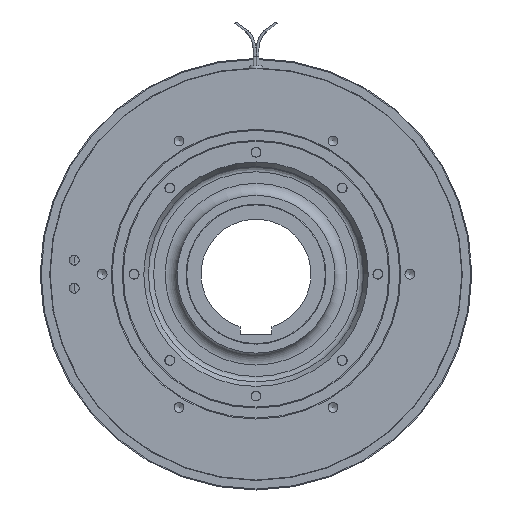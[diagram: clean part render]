
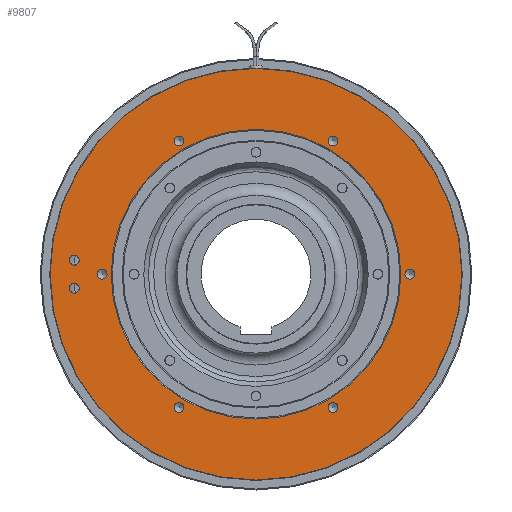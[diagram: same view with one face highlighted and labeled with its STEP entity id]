
A CAD part, left-side view. The second image highlights one B-rep face of the part: STEP entity #9807.
In plain terms, the highlighted planar face has unit normal (-1, 0, 0).
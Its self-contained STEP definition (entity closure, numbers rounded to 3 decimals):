
#747=FACE_BOUND('',#2061,.T.);
#748=FACE_BOUND('',#2062,.T.);
#749=FACE_BOUND('',#2063,.T.);
#750=FACE_BOUND('',#2064,.T.);
#751=FACE_BOUND('',#2065,.T.);
#752=FACE_BOUND('',#2066,.T.);
#753=FACE_BOUND('',#2067,.T.);
#754=FACE_BOUND('',#2068,.T.);
#755=FACE_BOUND('',#2069,.T.);
#948=PLANE('',#11174);
#1443=FACE_OUTER_BOUND('',#2060,.T.);
#2060=EDGE_LOOP('',(#9176,#9177,#9178));
#2061=EDGE_LOOP('',(#9179,#9180));
#2062=EDGE_LOOP('',(#9181,#9182));
#2063=EDGE_LOOP('',(#9183,#9184));
#2064=EDGE_LOOP('',(#9185,#9186));
#2065=EDGE_LOOP('',(#9187,#9188));
#2066=EDGE_LOOP('',(#9189,#9190));
#2067=EDGE_LOOP('',(#9191,#9192));
#2068=EDGE_LOOP('',(#9193,#9194));
#2069=EDGE_LOOP('',(#9195));
#3818=CIRCLE('',#11066,103.);
#3819=CIRCLE('',#11067,103.);
#3857=CIRCLE('',#11129,2.459);
#3858=CIRCLE('',#11130,2.459);
#3859=CIRCLE('',#11132,2.459);
#3860=CIRCLE('',#11133,2.459);
#3863=CIRCLE('',#11138,2.459);
#3864=CIRCLE('',#11139,2.459);
#3867=CIRCLE('',#11144,2.459);
#3868=CIRCLE('',#11145,2.459);
#3871=CIRCLE('',#11150,2.459);
#3872=CIRCLE('',#11151,2.459);
#3875=CIRCLE('',#11156,2.459);
#3876=CIRCLE('',#11157,2.459);
#3879=CIRCLE('',#11162,2.459);
#3880=CIRCLE('',#11163,2.459);
#3883=CIRCLE('',#11168,2.459);
#3884=CIRCLE('',#11169,2.459);
#3887=CIRCLE('',#11173,72.5);
#3888=CIRCLE('',#11175,103.);
#4796=VERTEX_POINT('',#17535);
#4797=VERTEX_POINT('',#17537);
#4798=VERTEX_POINT('',#17539);
#4832=VERTEX_POINT('',#17910);
#4833=VERTEX_POINT('',#17911);
#4834=VERTEX_POINT('',#17916);
#4835=VERTEX_POINT('',#17917);
#4839=VERTEX_POINT('',#17929);
#4840=VERTEX_POINT('',#17930);
#4844=VERTEX_POINT('',#17942);
#4845=VERTEX_POINT('',#17943);
#4849=VERTEX_POINT('',#17955);
#4850=VERTEX_POINT('',#17956);
#4854=VERTEX_POINT('',#17968);
#4855=VERTEX_POINT('',#17969);
#4859=VERTEX_POINT('',#17981);
#4860=VERTEX_POINT('',#17982);
#4864=VERTEX_POINT('',#17994);
#4865=VERTEX_POINT('',#17995);
#4868=VERTEX_POINT('',#18004);
#6209=EDGE_CURVE('',#4797,#4796,#3818,.T.);
#6210=EDGE_CURVE('',#4798,#4797,#3819,.T.);
#6271=EDGE_CURVE('',#4832,#4833,#3857,.T.);
#6272=EDGE_CURVE('',#4833,#4832,#3858,.T.);
#6274=EDGE_CURVE('',#4834,#4835,#3859,.T.);
#6275=EDGE_CURVE('',#4835,#4834,#3860,.T.);
#6280=EDGE_CURVE('',#4839,#4840,#3863,.T.);
#6281=EDGE_CURVE('',#4840,#4839,#3864,.T.);
#6286=EDGE_CURVE('',#4844,#4845,#3867,.T.);
#6287=EDGE_CURVE('',#4845,#4844,#3868,.T.);
#6292=EDGE_CURVE('',#4849,#4850,#3871,.T.);
#6293=EDGE_CURVE('',#4850,#4849,#3872,.T.);
#6298=EDGE_CURVE('',#4854,#4855,#3875,.T.);
#6299=EDGE_CURVE('',#4855,#4854,#3876,.T.);
#6304=EDGE_CURVE('',#4859,#4860,#3879,.T.);
#6305=EDGE_CURVE('',#4860,#4859,#3880,.T.);
#6310=EDGE_CURVE('',#4864,#4865,#3883,.T.);
#6311=EDGE_CURVE('',#4865,#4864,#3884,.T.);
#6316=EDGE_CURVE('',#4868,#4868,#3887,.T.);
#6317=EDGE_CURVE('',#4796,#4798,#3888,.T.);
#9176=ORIENTED_EDGE('',*,*,#6209,.T.);
#9177=ORIENTED_EDGE('',*,*,#6317,.T.);
#9178=ORIENTED_EDGE('',*,*,#6210,.T.);
#9179=ORIENTED_EDGE('',*,*,#6271,.T.);
#9180=ORIENTED_EDGE('',*,*,#6272,.T.);
#9181=ORIENTED_EDGE('',*,*,#6274,.T.);
#9182=ORIENTED_EDGE('',*,*,#6275,.T.);
#9183=ORIENTED_EDGE('',*,*,#6280,.T.);
#9184=ORIENTED_EDGE('',*,*,#6281,.T.);
#9185=ORIENTED_EDGE('',*,*,#6286,.T.);
#9186=ORIENTED_EDGE('',*,*,#6287,.T.);
#9187=ORIENTED_EDGE('',*,*,#6292,.T.);
#9188=ORIENTED_EDGE('',*,*,#6293,.T.);
#9189=ORIENTED_EDGE('',*,*,#6298,.T.);
#9190=ORIENTED_EDGE('',*,*,#6299,.T.);
#9191=ORIENTED_EDGE('',*,*,#6304,.T.);
#9192=ORIENTED_EDGE('',*,*,#6305,.T.);
#9193=ORIENTED_EDGE('',*,*,#6310,.T.);
#9194=ORIENTED_EDGE('',*,*,#6311,.T.);
#9195=ORIENTED_EDGE('',*,*,#6316,.F.);
#9807=ADVANCED_FACE('',(#1443,#747,#748,#749,#750,#751,#752,#753,#754,#755),
#948,.T.);
#11066=AXIS2_PLACEMENT_3D('',#17538,#14100,#14101);
#11067=AXIS2_PLACEMENT_3D('',#17540,#14102,#14103);
#11129=AXIS2_PLACEMENT_3D('',#17912,#14240,#14241);
#11130=AXIS2_PLACEMENT_3D('',#17913,#14242,#14243);
#11132=AXIS2_PLACEMENT_3D('',#17918,#14247,#14248);
#11133=AXIS2_PLACEMENT_3D('',#17919,#14249,#14250);
#11138=AXIS2_PLACEMENT_3D('',#17931,#14261,#14262);
#11139=AXIS2_PLACEMENT_3D('',#17932,#14263,#14264);
#11144=AXIS2_PLACEMENT_3D('',#17944,#14275,#14276);
#11145=AXIS2_PLACEMENT_3D('',#17945,#14277,#14278);
#11150=AXIS2_PLACEMENT_3D('',#17957,#14289,#14290);
#11151=AXIS2_PLACEMENT_3D('',#17958,#14291,#14292);
#11156=AXIS2_PLACEMENT_3D('',#17970,#14303,#14304);
#11157=AXIS2_PLACEMENT_3D('',#17971,#14305,#14306);
#11162=AXIS2_PLACEMENT_3D('',#17983,#14317,#14318);
#11163=AXIS2_PLACEMENT_3D('',#17984,#14319,#14320);
#11168=AXIS2_PLACEMENT_3D('',#17996,#14331,#14332);
#11169=AXIS2_PLACEMENT_3D('',#17997,#14333,#14334);
#11173=AXIS2_PLACEMENT_3D('',#18006,#14343,#14344);
#11174=AXIS2_PLACEMENT_3D('',#18007,#14345,#14346);
#11175=AXIS2_PLACEMENT_3D('',#18008,#14347,#14348);
#14100=DIRECTION('center_axis',(-1.,0.,0.));
#14101=DIRECTION('ref_axis',(0.,1.,0.));
#14102=DIRECTION('center_axis',(-1.,0.,0.));
#14103=DIRECTION('ref_axis',(0.,1.,0.));
#14240=DIRECTION('center_axis',(1.,0.,0.));
#14241=DIRECTION('ref_axis',(0.,0.,
1.));
#14242=DIRECTION('center_axis',(1.,0.,0.));
#14243=DIRECTION('ref_axis',(0.,0.,
1.));
#14247=DIRECTION('center_axis',(1.,0.,0.));
#14248=DIRECTION('ref_axis',(0.,0.,
1.));
#14249=DIRECTION('center_axis',(1.,0.,0.));
#14250=DIRECTION('ref_axis',(0.,0.,
1.));
#14261=DIRECTION('center_axis',(1.,0.,0.));
#14262=DIRECTION('ref_axis',(0.,0.,
1.));
#14263=DIRECTION('center_axis',(1.,0.,0.));
#14264=DIRECTION('ref_axis',(0.,0.,
1.));
#14275=DIRECTION('center_axis',(1.,0.,0.));
#14276=DIRECTION('ref_axis',(0.,0.,
1.));
#14277=DIRECTION('center_axis',(1.,0.,0.));
#14278=DIRECTION('ref_axis',(0.,0.,
1.));
#14289=DIRECTION('center_axis',(1.,0.,0.));
#14290=DIRECTION('ref_axis',(0.,0.,
1.));
#14291=DIRECTION('center_axis',(1.,0.,0.));
#14292=DIRECTION('ref_axis',(0.,0.,
1.));
#14303=DIRECTION('center_axis',(1.,0.,0.));
#14304=DIRECTION('ref_axis',(0.,0.,
1.));
#14305=DIRECTION('center_axis',(1.,0.,0.));
#14306=DIRECTION('ref_axis',(0.,0.,
1.));
#14317=DIRECTION('center_axis',(1.,0.,0.));
#14318=DIRECTION('ref_axis',(0.,0.,
1.));
#14319=DIRECTION('center_axis',(1.,0.,0.));
#14320=DIRECTION('ref_axis',(0.,0.,
1.));
#14331=DIRECTION('center_axis',(1.,0.,0.));
#14332=DIRECTION('ref_axis',(0.,0.,
1.));
#14333=DIRECTION('center_axis',(1.,0.,0.));
#14334=DIRECTION('ref_axis',(0.,0.,
1.));
#14343=DIRECTION('center_axis',(-1.,0.,0.));
#14344=DIRECTION('ref_axis',(0.,-1.,0.));
#14345=DIRECTION('center_axis',(-1.,0.,0.));
#14346=DIRECTION('ref_axis',(0.,0.,
1.));
#14347=DIRECTION('center_axis',(-1.,0.,0.));
#14348=DIRECTION('ref_axis',(0.,1.,0.));
#17535=CARTESIAN_POINT('',(-15.5,-103.,0.));
#17537=CARTESIAN_POINT('',(-15.5,103.,0.));
#17538=CARTESIAN_POINT('Origin',(-15.5,0.,0.));
#17539=CARTESIAN_POINT('',(-15.5,0.,103.));
#17540=CARTESIAN_POINT('Origin',(-15.5,0.,0.));
#17910=CARTESIAN_POINT('',(-15.5,91.,9.459));
#17911=CARTESIAN_POINT('',(-15.5,91.,4.542));
#17912=CARTESIAN_POINT('Origin',(-15.5,91.,7.));
#17913=CARTESIAN_POINT('Origin',(-15.5,91.,7.));
#17916=CARTESIAN_POINT('',(-15.5,91.,-4.542));
#17917=CARTESIAN_POINT('',(-15.5,91.,-9.459));
#17918=CARTESIAN_POINT('Origin',(-15.5,91.,-7.));
#17919=CARTESIAN_POINT('Origin',(-15.5,91.,-7.));
#17929=CARTESIAN_POINT('',(-15.5,38.5,69.142));
#17930=CARTESIAN_POINT('',(-15.5,38.5,64.225));
#17931=CARTESIAN_POINT('Origin',(-15.5,38.5,66.684));
#17932=CARTESIAN_POINT('Origin',(-15.5,38.5,66.684));
#17942=CARTESIAN_POINT('',(-15.5,-38.5,69.142));
#17943=CARTESIAN_POINT('',(-15.5,-38.5,64.225));
#17944=CARTESIAN_POINT('Origin',(-15.5,-38.5,66.684));
#17945=CARTESIAN_POINT('Origin',(-15.5,-38.5,66.684));
#17955=CARTESIAN_POINT('',(-15.5,-77.,2.458));
#17956=CARTESIAN_POINT('',(-15.5,-77.,-2.459));
#17957=CARTESIAN_POINT('Origin',(-15.5,-77.,0.));
#17958=CARTESIAN_POINT('Origin',(-15.5,-77.,0.));
#17968=CARTESIAN_POINT('',(-15.5,-38.5,-64.225));
#17969=CARTESIAN_POINT('',(-15.5,-38.5,-69.142));
#17970=CARTESIAN_POINT('Origin',(-15.5,-38.5,-66.684));
#17971=CARTESIAN_POINT('Origin',(-15.5,-38.5,-66.684));
#17981=CARTESIAN_POINT('',(-15.5,38.5,-64.225));
#17982=CARTESIAN_POINT('',(-15.5,38.5,-69.142));
#17983=CARTESIAN_POINT('Origin',(-15.5,38.5,-66.684));
#17984=CARTESIAN_POINT('Origin',(-15.5,38.5,-66.684));
#17994=CARTESIAN_POINT('',(-15.5,77.,2.459));
#17995=CARTESIAN_POINT('',(-15.5,77.,-2.459));
#17996=CARTESIAN_POINT('Origin',(-15.5,77.,0.));
#17997=CARTESIAN_POINT('Origin',(-15.5,77.,0.));
#18004=CARTESIAN_POINT('',(-15.5,72.5,0.));
#18006=CARTESIAN_POINT('Origin',(-15.5,0.,0.));
#18007=CARTESIAN_POINT('Origin',(-15.5,87.5,0.));
#18008=CARTESIAN_POINT('Origin',(-15.5,0.,0.));
